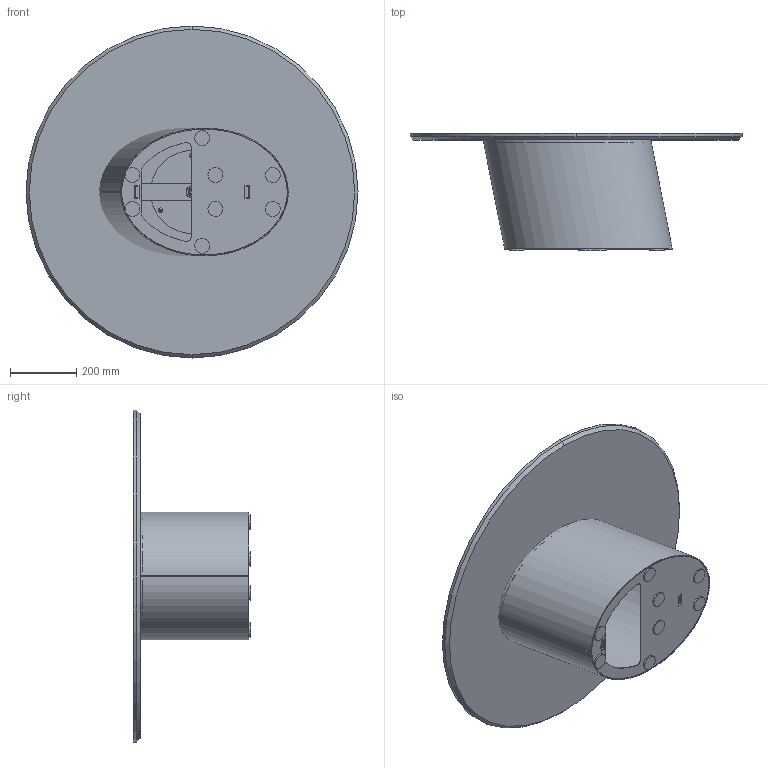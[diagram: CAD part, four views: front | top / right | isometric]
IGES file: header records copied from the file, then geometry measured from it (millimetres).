
Start section: SolidWorks IGES file using analytic representation for surfaces
Global section: file name: Y:\eforma\TECNICO\SOLIDWORKS\E-FORMA\2-TAVOLINI\DORADO LOW\02 parts\D103M.IGS; native system: SolidWorks 2022; preprocessor: SolidWorks 2022; author: eforma.tech; date: 240807.132004; units: millimetre
Bounding box: 1000 x 353 x 1000 mm (x, y, z)
Volume: 17791433.4 mm3; surface area: 3184610.5 mm2
Topology: 22 solids, 22 shells, 357 faces, 843 edges, 522 vertices
Faces by surface type: revolution 198, plane 142, bspline 17
